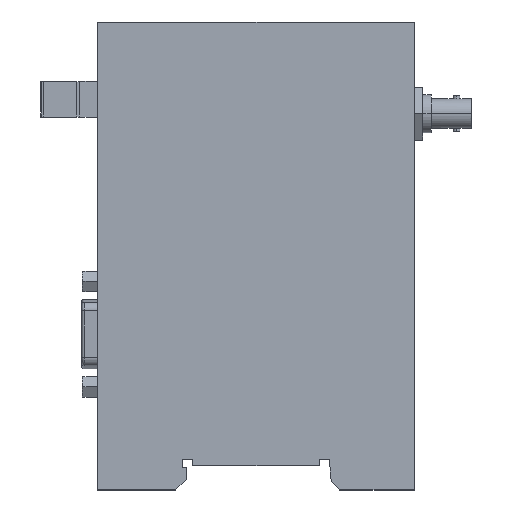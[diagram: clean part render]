
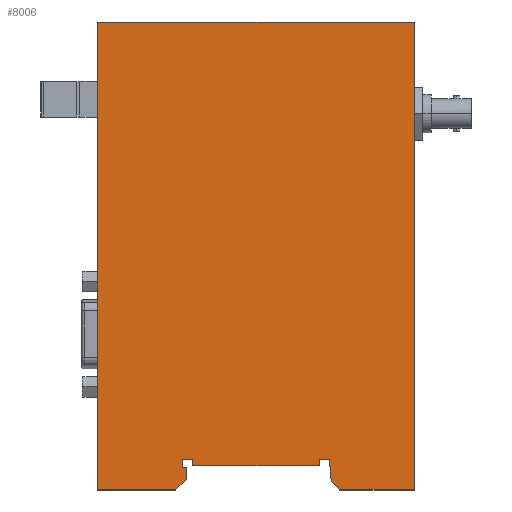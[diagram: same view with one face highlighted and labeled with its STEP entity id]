
A CAD part, top view. The second image highlights one B-rep face of the part: STEP entity #8006.
In plain terms, the highlighted planar face has unit normal (0, 0, 1).
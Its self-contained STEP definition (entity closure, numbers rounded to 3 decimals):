
#64 = VERTEX_POINT ( 'NONE', #4442 ) ;
#123 = VECTOR ( 'NONE', #7214, 1000. ) ;
#148 = LINE ( 'NONE', #815, #9307 ) ;
#213 = ORIENTED_EDGE ( 'NONE', *, *, #3672, .T. ) ;
#215 = CARTESIAN_POINT ( 'NONE',  ( 22.5, 5.7, 19. ) ) ;
#249 = ORIENTED_EDGE ( 'NONE', *, *, #3817, .T. ) ;
#329 = DIRECTION ( 'NONE',  ( 0., -1., 0. ) ) ;
#586 = DIRECTION ( 'NONE',  ( 0., -1., 0. ) ) ;
#654 = CARTESIAN_POINT ( 'NONE',  ( 0., 110.8, 19. ) ) ;
#691 = ORIENTED_EDGE ( 'NONE', *, *, #11330, .T. ) ;
#692 = CARTESIAN_POINT ( 'NONE',  ( 18.5, 0., 19. ) ) ;
#815 = CARTESIAN_POINT ( 'NONE',  ( 57.324, 0., 19. ) ) ;
#851 = VERTEX_POINT ( 'NONE', #7901 ) ;
#924 = CARTESIAN_POINT ( 'NONE',  ( 55.324, 2., 19. ) ) ;
#965 = LINE ( 'NONE', #1053, #123 ) ;
#1021 = DIRECTION ( 'NONE',  ( 0., 1., 0. ) ) ;
#1053 = CARTESIAN_POINT ( 'NONE',  ( 20., 5.2, 19. ) ) ;
#1273 = CARTESIAN_POINT ( 'NONE',  ( 55., 7.2, 19. ) ) ;
#1354 = CARTESIAN_POINT ( 'NONE',  ( 75., 110.8, 19. ) ) ;
#1466 = DIRECTION ( 'NONE',  ( 0., 0., -1. ) ) ;
#1639 = EDGE_CURVE ( 'NONE', #4878, #10992, #4449, .T. ) ;
#1908 = CARTESIAN_POINT ( 'NONE',  ( 75., 0., 19. ) ) ;
#2234 = CARTESIAN_POINT ( 'NONE',  ( 0., 0., 19. ) ) ;
#2249 = VERTEX_POINT ( 'NONE', #6524 ) ;
#2374 = EDGE_LOOP ( 'NONE', ( #11070, #5693, #6056, #213, #6837, #249, #691, #7594, #8582, #6740, #6233, #3064, #4583, #2877, #6226, #8431, #10564 ) ) ;
#2591 = CARTESIAN_POINT ( 'NONE',  ( 21., 2.5, 19. ) ) ;
#2599 = CARTESIAN_POINT ( 'NONE',  ( 55., 5.7, 19. ) ) ;
#2694 = CARTESIAN_POINT ( 'NONE',  ( 75., 0., 19. ) ) ;
#2701 = DIRECTION ( 'NONE',  ( 0., 1., 0. ) ) ;
#2713 = CARTESIAN_POINT ( 'NONE',  ( 52.5, 5.7, 19. ) ) ;
#2715 = DIRECTION ( 'NONE',  ( 0., 1., 0. ) ) ;
#2721 = CARTESIAN_POINT ( 'NONE',  ( 52.5, 7.2, 19. ) ) ;
#2758 = EDGE_CURVE ( 'NONE', #3106, #64, #3243, .T. ) ;
#2851 = VERTEX_POINT ( 'NONE', #4806 ) ;
#2877 = ORIENTED_EDGE ( 'NONE', *, *, #4074, .T. ) ;
#3064 = ORIENTED_EDGE ( 'NONE', *, *, #4730, .T. ) ;
#3106 = VERTEX_POINT ( 'NONE', #2713 ) ;
#3243 = LINE ( 'NONE', #2721, #9386 ) ;
#3271 = EDGE_CURVE ( 'NONE', #7494, #4878, #11158, .T. ) ;
#3434 = LINE ( 'NONE', #692, #10823 ) ;
#3511 = DIRECTION ( 'NONE',  ( 0.707, -0.707, 0. ) ) ;
#3672 = EDGE_CURVE ( 'NONE', #2851, #5707, #9319, .T. ) ;
#3771 = DIRECTION ( 'NONE',  ( 1., 0., 0. ) ) ;
#3817 = EDGE_CURVE ( 'NONE', #8342, #10891, #8195, .T. ) ;
#4032 = VECTOR ( 'NONE', #11025, 1000. ) ;
#4074 = EDGE_CURVE ( 'NONE', #851, #9714, #7277, .T. ) ;
#4102 = CARTESIAN_POINT ( 'NONE',  ( 0., 0., 19. ) ) ;
#4442 = CARTESIAN_POINT ( 'NONE',  ( 52.5, 7.2, 19. ) ) ;
#4445 = VECTOR ( 'NONE', #11124, 1000. ) ;
#4449 = LINE ( 'NONE', #6835, #10707 ) ;
#4501 = DIRECTION ( 'NONE',  ( 1., 0., 0. ) ) ;
#4510 = VECTOR ( 'NONE', #3771, 1000. ) ;
#4583 = ORIENTED_EDGE ( 'NONE', *, *, #5976, .T. ) ;
#4730 = EDGE_CURVE ( 'NONE', #9762, #6119, #10870, .T. ) ;
#4776 = CARTESIAN_POINT ( 'NONE',  ( 57.324, 0., 19. ) ) ;
#4806 = CARTESIAN_POINT ( 'NONE',  ( 21., 2.5, 19. ) ) ;
#4878 = VERTEX_POINT ( 'NONE', #654 ) ;
#4959 = DIRECTION ( 'NONE',  ( -1., 0., 0. ) ) ;
#5227 = DIRECTION ( 'NONE',  ( 0.087, -0.996, 0. ) ) ;
#5250 = CARTESIAN_POINT ( 'NONE',  ( 18.5, 0., 19. ) ) ;
#5265 = VERTEX_POINT ( 'NONE', #2694 ) ;
#5318 = EDGE_CURVE ( 'NONE', #64, #9762, #5699, .T. ) ;
#5383 = EDGE_CURVE ( 'NONE', #10992, #8673, #9164, .T. ) ;
#5389 = LINE ( 'NONE', #1908, #11496 ) ;
#5470 = CARTESIAN_POINT ( 'NONE',  ( 0., 110.8, 19. ) ) ;
#5693 = ORIENTED_EDGE ( 'NONE', *, *, #5383, .T. ) ;
#5699 = LINE ( 'NONE', #1273, #6813 ) ;
#5707 = VERTEX_POINT ( 'NONE', #7142 ) ;
#5781 = EDGE_CURVE ( 'NONE', #5265, #7494, #5389, .T. ) ;
#5976 = EDGE_CURVE ( 'NONE', #6119, #851, #9612, .T. ) ;
#5994 = VECTOR ( 'NONE', #3511, 1000. ) ;
#6056 = ORIENTED_EDGE ( 'NONE', *, *, #10552, .T. ) ;
#6119 = VERTEX_POINT ( 'NONE', #2599 ) ;
#6190 = VERTEX_POINT ( 'NONE', #215 ) ;
#6226 = ORIENTED_EDGE ( 'NONE', *, *, #7653, .T. ) ;
#6233 = ORIENTED_EDGE ( 'NONE', *, *, #5318, .T. ) ;
#6343 = DIRECTION ( 'NONE',  ( -1., 0., 0. ) ) ;
#6462 = FACE_OUTER_BOUND ( 'NONE', #2374, .T. ) ;
#6523 = AXIS2_PLACEMENT_3D ( 'NONE', #2234, #1466, #4959 ) ;
#6524 = CARTESIAN_POINT ( 'NONE',  ( 22.5, 7.2, 19. ) ) ;
#6740 = ORIENTED_EDGE ( 'NONE', *, *, #2758, .T. ) ;
#6813 = VECTOR ( 'NONE', #9114, 1000. ) ;
#6835 = CARTESIAN_POINT ( 'NONE',  ( 0., 0., 19. ) ) ;
#6837 = ORIENTED_EDGE ( 'NONE', *, *, #10696, .T. ) ;
#7140 = DIRECTION ( 'NONE',  ( 1., 0., 0. ) ) ;
#7142 = CARTESIAN_POINT ( 'NONE',  ( 21., 5.2, 19. ) ) ;
#7214 = DIRECTION ( 'NONE',  ( -1., 0., 0. ) ) ;
#7251 = CARTESIAN_POINT ( 'NONE',  ( 22.5, 5.7, 19. ) ) ;
#7277 = LINE ( 'NONE', #924, #5994 ) ;
#7288 = LINE ( 'NONE', #7251, #8803 ) ;
#7329 = CARTESIAN_POINT ( 'NONE',  ( 22.5, 5.7, 19. ) ) ;
#7494 = VERTEX_POINT ( 'NONE', #1354 ) ;
#7550 = LINE ( 'NONE', #8054, #4510 ) ;
#7594 = ORIENTED_EDGE ( 'NONE', *, *, #8429, .T. ) ;
#7620 = DIRECTION ( 'NONE',  ( 0., 1., 0. ) ) ;
#7653 = EDGE_CURVE ( 'NONE', #9714, #5265, #148, .T. ) ;
#7684 = VECTOR ( 'NONE', #6343, 1000. ) ;
#7901 = CARTESIAN_POINT ( 'NONE',  ( 55.324, 2., 19. ) ) ;
#8006 = ADVANCED_FACE ( 'NONE', ( #6462 ), #10218, .F. ) ;
#8044 = VECTOR ( 'NONE', #5227, 1000. ) ;
#8054 = CARTESIAN_POINT ( 'NONE',  ( 22.5, 7.2, 19. ) ) ;
#8195 = LINE ( 'NONE', #11192, #10272 ) ;
#8342 = VERTEX_POINT ( 'NONE', #8988 ) ;
#8429 = EDGE_CURVE ( 'NONE', #2249, #6190, #10612, .T. ) ;
#8431 = ORIENTED_EDGE ( 'NONE', *, *, #5781, .T. ) ;
#8582 = ORIENTED_EDGE ( 'NONE', *, *, #9941, .T. ) ;
#8673 = VERTEX_POINT ( 'NONE', #5250 ) ;
#8803 = VECTOR ( 'NONE', #7140, 1000. ) ;
#8988 = CARTESIAN_POINT ( 'NONE',  ( 20., 5.2, 19. ) ) ;
#9114 = DIRECTION ( 'NONE',  ( 1., 0., 0. ) ) ;
#9164 = LINE ( 'NONE', #10226, #4445 ) ;
#9236 = CARTESIAN_POINT ( 'NONE',  ( 55., 7.2, 19. ) ) ;
#9307 = VECTOR ( 'NONE', #4501, 1000. ) ;
#9319 = LINE ( 'NONE', #2591, #10863 ) ;
#9386 = VECTOR ( 'NONE', #1021, 1000. ) ;
#9489 = VECTOR ( 'NONE', #329, 1000. ) ;
#9612 = LINE ( 'NONE', #10533, #8044 ) ;
#9714 = VERTEX_POINT ( 'NONE', #4776 ) ;
#9762 = VERTEX_POINT ( 'NONE', #9236 ) ;
#9941 = EDGE_CURVE ( 'NONE', #6190, #3106, #7288, .T. ) ;
#10218 = PLANE ( 'NONE',  #6523 ) ;
#10226 = CARTESIAN_POINT ( 'NONE',  ( 0., 0., 19. ) ) ;
#10272 = VECTOR ( 'NONE', #7620, 1000. ) ;
#10533 = CARTESIAN_POINT ( 'NONE',  ( 55., 5.7, 19. ) ) ;
#10552 = EDGE_CURVE ( 'NONE', #8673, #2851, #3434, .T. ) ;
#10564 = ORIENTED_EDGE ( 'NONE', *, *, #3271, .T. ) ;
#10612 = LINE ( 'NONE', #7329, #9489 ) ;
#10696 = EDGE_CURVE ( 'NONE', #5707, #8342, #965, .T. ) ;
#10707 = VECTOR ( 'NONE', #586, 1000. ) ;
#10823 = VECTOR ( 'NONE', #11275, 1000. ) ;
#10863 = VECTOR ( 'NONE', #2701, 1000. ) ;
#10870 = LINE ( 'NONE', #11050, #4032 ) ;
#10891 = VERTEX_POINT ( 'NONE', #11064 ) ;
#10992 = VERTEX_POINT ( 'NONE', #4102 ) ;
#11025 = DIRECTION ( 'NONE',  ( 0., -1., 0. ) ) ;
#11050 = CARTESIAN_POINT ( 'NONE',  ( 55., 5.7, 19. ) ) ;
#11064 = CARTESIAN_POINT ( 'NONE',  ( 20., 7.2, 19. ) ) ;
#11070 = ORIENTED_EDGE ( 'NONE', *, *, #1639, .T. ) ;
#11124 = DIRECTION ( 'NONE',  ( 1., 0., 0. ) ) ;
#11158 = LINE ( 'NONE', #5470, #7684 ) ;
#11192 = CARTESIAN_POINT ( 'NONE',  ( 20., 7.2, 19. ) ) ;
#11275 = DIRECTION ( 'NONE',  ( 0.707, 0.707, 0. ) ) ;
#11330 = EDGE_CURVE ( 'NONE', #10891, #2249, #7550, .T. ) ;
#11496 = VECTOR ( 'NONE', #2715, 1000. ) ;
